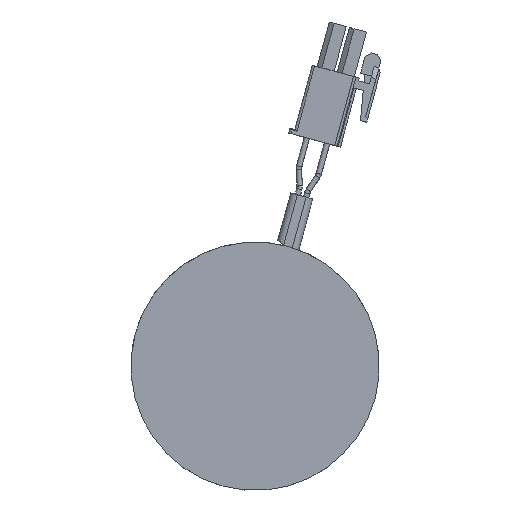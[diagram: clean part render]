
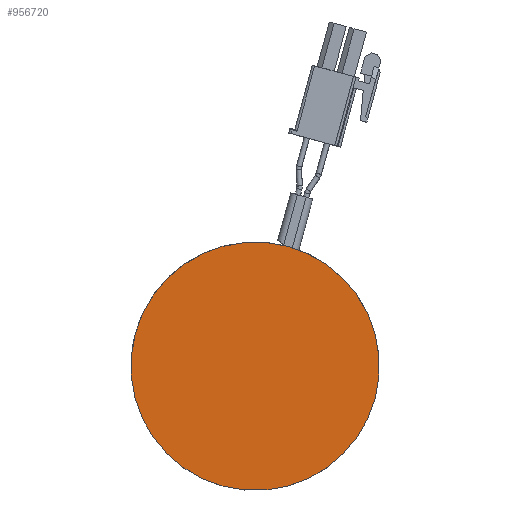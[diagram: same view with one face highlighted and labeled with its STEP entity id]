
A CAD part, top view. The second image highlights one B-rep face of the part: STEP entity #956720.
In plain terms, the highlighted planar face has unit normal (0, 0, 1).
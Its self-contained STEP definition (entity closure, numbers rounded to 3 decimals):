
#956390=CARTESIAN_POINT('',(24.905,2.179,
29.7));
#956400=VERTEX_POINT('',#956390);
#956430=CARTESIAN_POINT('',(0.,0.,
29.7));
#956440=DIRECTION('',(0.,0.,1.));
#956450=DIRECTION('',(0.643,0.766,
0.));
#956460=AXIS2_PLACEMENT_3D('',#956430,#956440,#956450);
#956470=CIRCLE('',#956460,25.);
#956480=CARTESIAN_POINT('',(-24.905,-2.179,
29.7));
#956490=VERTEX_POINT('',#956480);
#956500=EDGE_CURVE('',#956400,#956490,#956470,.T.);
#956620=CARTESIAN_POINT('',(-17.485,14.672,
29.7));
#956630=DIRECTION('',(0.,0.,1.));
#956640=DIRECTION('',(-0.643,-0.766,
0.));
#956650=AXIS2_PLACEMENT_3D('',#956620,#956630,#956640);
#956660=PLANE('',#956650);
#956670=EDGE_CURVE('',#956490,#956400,#956470,.T.);
#956680=ORIENTED_EDGE('',*,*,#956670,.T.);
#956690=ORIENTED_EDGE('',*,*,#956500,.T.);
#956700=EDGE_LOOP('',(#956690,#956680));
#956710=FACE_OUTER_BOUND('',#956700,.T.);
#956720=ADVANCED_FACE('',(#956710),#956660,.T.);
